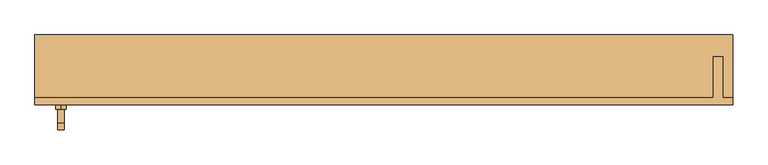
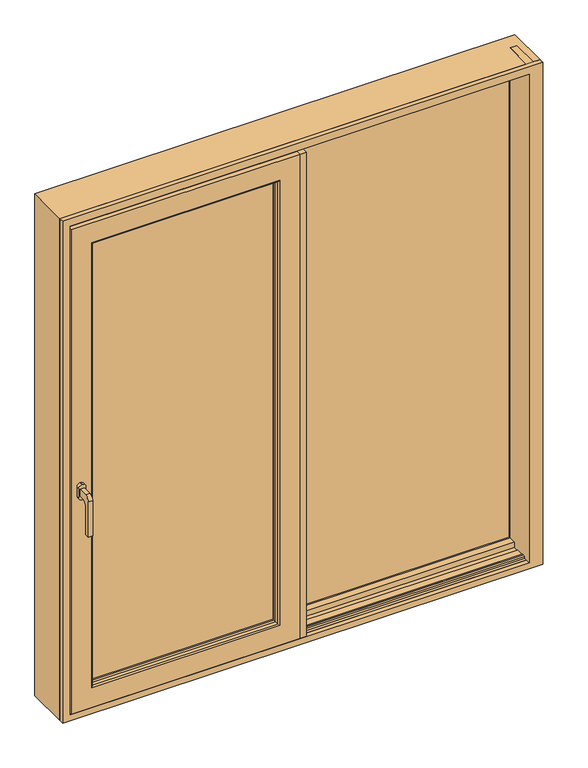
"""IFC4 building model written with IfcOpenShell, lengths in millimetres: door geometry, 2_pod-kli : 2_pod-kli."""

from ifc_helpers import new_model, si_unit, point, frame, frame_2d, origin, place, context, project, spatial, polyline, circle_curve, ellipse_curve, trimmed, segment, composite_curve, outline, extrude, faceted_brep, source, transform, mapped, element, save
from ifc_brep_helpers import plane_surface, cylinder_surface, advanced_brep


def door_d54a2562(model_context):
    return source(origin(), model_context, "Body", "SolidModel", [
        extrude(outline(composite_curve([segment(polyline([(-63.0, 985.0), (-79.0, 985.0)]), True, "CONTINUOUS"), segment(trimmed(circle_curve(frame_2d((-79.0, 960.0)), 25.0), [point((-79.0, 985.0))], [point((-104.0, 960.0))], True, "CARTESIAN"), True, "CONTINUOUS"), segment(polyline([(-104.0, 960.0), (-104.0, 840.0), (-122.0, 840.0), (-122.0, 995.0)]), True, "CONTINUOUS"), segment(trimmed(circle_curve(frame_2d((-102.0, 995.0)), 20.0), [point((-122.0, 995.0))], [point((-102.0, 1015.0))], False, "CARTESIAN"), True, "CONTINUOUS"), segment(polyline([(-102.0, 1015.0), (-63.0, 1015.0), (-63.0, 1000.0), (-63.0, 985.0)]), True, "CONTINUOUS")], self_intersect=False)), frame((-934.6076899, 0.0, 0.0), z_axis=(1.0, 0.0, 0.0), x_axis=(0.0, 1.0, 0.0)), (0.0, 0.0, 1.0), 18.0),
        extrude(outline(composite_curve([segment(trimmed(circle_curve(frame_2d((981.0, -925.6076899)), 15.0), [point((981.0, -940.6076899))], [point((966.0, -925.6076899))], False, "CARTESIAN"), True, "CONTINUOUS"), segment(trimmed(circle_curve(frame_2d((981.0, -925.6076899)), 15.0), [point((966.0, -925.6076899))], [point((981.0, -910.6076899))], False, "CARTESIAN"), True, "CONTINUOUS"), segment(polyline([(981.0, -910.6076899), (1019.0, -910.6076899)]), True, "CONTINUOUS"), segment(trimmed(circle_curve(frame_2d((1019.0, -925.6076899)), 15.0), [point((1019.0, -910.6076899))], [point((1034.0, -925.6076899))], False, "CARTESIAN"), True, "CONTINUOUS"), segment(trimmed(circle_curve(frame_2d((1019.0, -925.6076899)), 15.0), [point((1034.0, -925.6076899))], [point((1019.0, -940.6076899))], False, "CARTESIAN"), True, "CONTINUOUS"), segment(polyline([(1019.0, -940.6076899), (981.0, -940.6076899)]), True, "CONTINUOUS")], self_intersect=False)), frame((0.0, -63.0, 0.0), z_axis=(0.0, 1.0, 0.0), x_axis=(0.0, 0.0, 1.0)), (0.0, 0.0, 1.0), 13.0),
        extrude(outline(polyline([(15.9997424, -50.0), (-9.3, -50.0), (-9.3, 55.0016512), (15.9997424, 55.0016512), (15.9997424, -50.0)])), frame((0.0, 0.0, 27.9994282), z_axis=(0.0, 0.0, 1.0), x_axis=(1.0, 0.0, 0.0)), (0.0, 0.0, 1.0), 2132.0005718),
        advanced_brep(
        [(-95.6733525, -50.0000001, 2073.6269051), (-100.6260911, -45.6858427, 2068.6741665), (-100.6260911, -45.6858427, 119.3258335), (-95.6733525, -50.0000001, 114.3730949), (-102.7996957, -29.9893924, 2066.5005619), (-102.7996957, -29.9893924, 121.4994381), (-873.6741665, -45.6858427, 119.3258335), (-878.6269051, -50.0000001, 114.3730949), (-9.3002576, -50.0, 2160.0), (-965.0, -50.0, 2160.0), (-965.0, -50.0, 28.0), (-9.3002576, -50.0, 28.0), (-878.6269051, -50.0, 2073.6269051), (-9.3002576, -29.8399769, 2160.0), (-9.3002576, -29.8399769, 28.0), (-965.0, -29.8399769, 28.0), (-965.0, -29.8399769, 2160.0), (-76.3996957, -29.8399769, 2092.9005619), (-897.9005619, -29.8399769, 2092.9005619), (-897.9005619, -29.8399769, 95.0994381), (-76.3996957, -29.8399769, 95.0994381), (-76.3996957, -19.9908997, 2092.9005619), (-76.3996957, -19.9908997, 95.0994381), (-897.9005619, -19.9908997, 95.0994381), (-897.9005619, -19.9908997, 2092.9005619), (-102.7996957, -19.9908997, 2066.5005619), (-871.5005619, -19.9908997, 2066.5005619), (-871.5005619, -19.9908997, 121.4994381), (-102.7996957, -19.9908997, 121.4994381), (-871.5005619, -29.9893924, 121.4994381), (-873.6741665, -45.6858427, 2068.6741665), (-871.5005619, -29.9893924, 2066.5005619)],
        [
            (0, 1, ellipse_curve(frame((-95.6733525, -45.0000001, 2073.6269051), z_axis=(0.7071067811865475, 0.0, -0.7071067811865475), x_axis=(0.7071067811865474, 0.0, 0.7071067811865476)), 7.0710678, 5.0)),
            (1, 2),
            (2, 3, ellipse_curve(frame((-95.6733525, -45.0000001, 114.3730949), z_axis=(0.7071067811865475, 0.0, 0.7071067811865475), x_axis=(-0.7071067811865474, 0.0, 0.7071067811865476)), 7.0710678, 5.0)),
            (3, 0),
            (1, 4),
            (4, 5),
            (5, 2),
            (2, 6),
            (6, 7, ellipse_curve(frame((-878.6269051, -45.0000001, 114.3730949), z_axis=(0.7071067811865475, 0.0, -0.7071067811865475), x_axis=(0.7071067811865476, 0.0, 0.7071067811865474)), 7.0710678, 5.0)),
            (7, 3),
            (8, 9),
            (9, 10),
            (10, 11),
            (11, 8),
            (7, 12),
            (12, 0),
            (13, 8),
            (11, 14),
            (14, 13),
            (10, 15),
            (15, 14),
            (15, 16),
            (16, 13),
            (17, 18),
            (18, 19),
            (19, 20),
            (20, 17),
            (21, 17),
            (20, 22),
            (22, 21),
            (19, 23),
            (23, 22),
            (23, 24),
            (24, 21),
            (25, 26),
            (26, 27),
            (27, 28),
            (28, 25),
            (4, 25),
            (28, 5),
            (27, 29),
            (29, 5),
            (29, 6),
            (6, 30),
            (30, 12, ellipse_curve(frame((-878.6269051, -45.0000001, 2073.6269051), z_axis=(-0.7071067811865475, 0.0, -0.7071067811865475), x_axis=(0.7071067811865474, 0.0, -0.7071067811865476)), 7.0710678, 5.0)),
            (9, 16),
            (18, 24),
            (26, 31),
            (31, 29),
            (31, 30),
            (30, 1),
            (4, 31),
        ],
        [
            cylinder_surface(frame((-95.6733525, -45.0000001, 2188.0), z_axis=(0.0, 0.0, 1.0), x_axis=(0.00014757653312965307, -0.9999999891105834, 0.0)), 5.0),
            plane_surface(frame((-102.7996957, -29.9893924, 2066.5005619), z_axis=(-0.9905477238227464, -0.13716853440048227, 0.0), x_axis=(0.0, 0.0, -1.0))),
            cylinder_surface(frame((18.6997424, -45.0000001, 114.3730949), z_axis=(1.0, 0.0, 0.0), x_axis=(0.0, -0.9999999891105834, -0.00014757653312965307)), 5.0),
            plane_surface(frame((-878.6269051, -50.0, 2073.6269051), z_axis=(0.0, -1.0, 0.0), x_axis=(1.0, 0.0, 0.0))),
            plane_surface(frame((-9.3002576, -50.0, 2160.0), z_axis=(1.0, 0.0, 0.0), x_axis=(0.0, 0.0, -1.0))),
            plane_surface(frame((-9.3002576, -50.0, 28.0), z_axis=(0.0, 0.0, -1.0), x_axis=(-1.0, 0.0, 0.0))),
            plane_surface(frame((-965.0, -29.8399769, 2160.0), z_axis=(0.0, 1.0, 0.0), x_axis=(1.0, 0.0, 0.0))),
            plane_surface(frame((-76.3996957, -29.8399769, 2092.9005619), z_axis=(1.0, 0.0, 0.0), x_axis=(0.0, 0.0, -1.0))),
            plane_surface(frame((-76.3996957, -29.8399769, 95.0994381), z_axis=(0.0, 0.0, -1.0), x_axis=(-1.0, 0.0, 0.0))),
            plane_surface(frame((-897.9005619, -19.9908997, 2092.9005619), z_axis=(0.0, 1.0, 0.0), x_axis=(1.0, 0.0, 0.0))),
            plane_surface(frame((-102.7996957, -19.9908997, 2066.5005619), z_axis=(-1.0, 0.0, 0.0), x_axis=(0.0, 0.0, -1.0))),
            plane_surface(frame((-102.7996957, -19.9908997, 121.4994381), z_axis=(0.0, 0.0, 1.0), x_axis=(-1.0, 0.0, 0.0))),
            plane_surface(frame((-102.7996957, -29.9893924, 121.4994381), z_axis=(0.0, -0.13716853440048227, 0.9905477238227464), x_axis=(-1.0, 0.0, 0.0))),
            cylinder_surface(frame((-878.6269051, -45.0000001, 0.0), z_axis=(0.0, 0.0, -1.0), x_axis=(-0.00014757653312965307, -0.9999999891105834, 0.0)), 5.0),
            plane_surface(frame((-965.0, -50.0, 28.0), z_axis=(-1.0, 0.0, 0.0), x_axis=(0.0, 0.0, 1.0))),
            plane_surface(frame((-897.9005619, -29.8399769, 95.0994381), z_axis=(-1.0, 0.0, 0.0), x_axis=(0.0, 0.0, 1.0))),
            plane_surface(frame((-871.5005619, -19.9908997, 121.4994381), z_axis=(1.0, 0.0, 0.0), x_axis=(0.0, 0.0, 1.0))),
            plane_surface(frame((-871.5005619, -29.9893924, 121.4994381), z_axis=(0.9905477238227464, -0.13716853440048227, 0.0), x_axis=(0.0, 0.0, 1.0))),
            cylinder_surface(frame((-993.0, -45.0000001, 2073.6269051), z_axis=(-1.0, 0.0, 0.0), x_axis=(0.0, -0.9999999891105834, 0.00014757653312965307)), 5.0),
            plane_surface(frame((-965.0, -50.0, 2160.0), z_axis=(0.0, 0.0, 1.0), x_axis=(1.0, 0.0, 0.0))),
            plane_surface(frame((-897.9005619, -29.8399769, 2092.9005619), z_axis=(0.0, 0.0, 1.0), x_axis=(1.0, 0.0, 0.0))),
            plane_surface(frame((-871.5005619, -19.9908997, 2066.5005619), z_axis=(0.0, 0.0, -1.0), x_axis=(1.0, 0.0, 0.0))),
            plane_surface(frame((-871.5005619, -29.9893924, 2066.5005619), z_axis=(0.0, -0.13716853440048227, -0.9905477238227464), x_axis=(1.0, 0.0, 0.0))),
        ],
        [
            (0, [[1, 2, 3, 4]]),
            (1, [[5, 6, 7, -2]]),
            (2, [[-3, 8, 9, 10]]),
            (3, [[11, 12, 13, 14], [-10, 15, 16, -4]]),
            (4, [[17, -14, 18, 19]]),
            (5, [[-18, -13, 20, 21]]),
            (6, [[-21, 22, 23, -19], [24, 25, 26, 27]]),
            (7, [[28, -27, 29, 30]]),
            (8, [[-29, -26, 31, 32]]),
            (9, [[-32, 33, 34, -30], [35, 36, 37, 38]]),
            (10, [[39, -38, 40, -6]]),
            (11, [[-40, -37, 41, 42]]),
            (12, [[-7, -42, 43, -8]]),
            (13, [[-9, 44, 45, -15]]),
            (14, [[-20, -12, 46, -22]]),
            (15, [[-31, -25, 47, -33]]),
            (16, [[-41, -36, 48, 49]]),
            (17, [[-43, -49, 50, -44]]),
            (18, [[-45, 51, -1, -16]]),
            (19, [[-46, -11, -17, -23]]),
            (20, [[-47, -24, -28, -34]]),
            (21, [[-48, -35, -39, 52]]),
            (22, [[-50, -52, -5, -51]]),
        ],
    ),
        extrude(outline(polyline([(-86.79969, -11.9872085), (-887.5005675, -11.9872085), (-887.5005675, 34.0127085), (-86.79969, 34.0127085), (-86.79969, -11.9872085)])), frame((0.0, 0.0, 105.4994325), z_axis=(0.0, 0.0, 1.0), x_axis=(1.0, 0.0, 0.0)), (0.0, 0.0, 1.0), 1977.001135),
        faceted_brep([(-965.0, -29.8399769, 28.0), (-965.0, -20.6389612, 28.0), (-9.3002576, -20.6389612, 28.0), (-9.3002576, -29.8399769, 28.0), (-9.3002576, -20.6389612, 2160.0), (-9.3002576, -29.8399769, 2160.0), (-965.0, -20.6389612, 2160.0), (-30.7996854, -20.6389612, 2138.5005722), (-943.5005722, -20.6389612, 2138.5005722), (-943.5005722, -20.6389612, 49.4994278), (-30.7996854, -20.6389612, 49.4994278), (-965.0, -29.8399769, 2160.0), (-76.3996957, -29.8399769, 95.0994381), (-897.9005619, -29.8399769, 95.0994381), (-897.9005619, -29.8399769, 2092.9005619), (-76.3996957, -29.8399769, 2092.9005619), (-897.9005619, -19.9908997, 95.0994381), (-76.3996957, -19.9908997, 95.0994381), (-76.3996957, -19.9908997, 2092.9005619), (-897.9005619, -19.9908997, 2092.9005619), (-102.7996957, -19.9908997, 121.4994381), (-871.5005619, -19.9908997, 121.4994381), (-871.5005619, -19.9908997, 2066.5005619), (-102.7996957, -19.9908997, 2066.5005619), (-871.5005619, -11.9872085, 121.4994381), (-102.7996957, -11.9872085, 121.4994381), (-102.7996957, -11.9872085, 2066.5005619), (-86.79969, -11.9872085, 105.4994325), (-887.5005675, -11.9872085, 105.4994325), (-887.5005675, -11.9872085, 2082.5005675), (-86.79969, -11.9872085, 2082.5005675), (-871.5005619, -11.9872085, 2066.5005619), (-887.5005675, 34.0127085, 105.4994325), (-86.79969, 34.0127085, 105.4994325), (-86.79969, 34.0127085, 2082.5005675), (-887.5005675, 34.0127085, 2082.5005675), (-101.799685, 34.0127085, 120.4994274), (-872.5005726, 34.0127085, 120.4994274), (-872.5005726, 34.0127085, 2067.5005726), (-101.799685, 34.0127085, 2067.5005726), (-872.5005726, 42.0100227, 120.4994274), (-101.799685, 42.0100227, 120.4994274), (-101.799685, 42.0100227, 2067.5005726), (-9.2996857, 42.0100227, 27.9994282), (-965.0005718, 42.0100227, 27.9994282), (-965.0005718, 42.0100227, 2160.0005718), (-9.2996857, 42.0100227, 2160.0005718), (-872.5005726, 42.0100227, 2067.5005726), (-965.0005718, 37.5090496, 27.9994282), (-9.2996857, 37.5090496, 27.9994282), (-9.2996857, 37.5090496, 2160.0005718), (-965.0005718, 37.5090496, 2160.0005718), (-30.7996854, 37.5090496, 49.4994278), (-943.5005722, 37.5090496, 49.4994278), (-943.5005722, 37.5090496, 2138.5005722), (-30.7996854, 37.5090496, 2138.5005722)], [[[0, 1, 2, 3]], [[3, 2, 4, 5]], [[2, 1, 6, 4], [7, 8, 9, 10]], [[5, 11, 0, 3], [12, 13, 14, 15]], [[16, 13, 12, 17]], [[17, 12, 15, 18]], [[18, 19, 16, 17], [20, 21, 22, 23]], [[24, 21, 20, 25]], [[25, 20, 23, 26]], [[27, 28, 29, 30], [26, 31, 24, 25]], [[32, 28, 27, 33]], [[33, 27, 30, 34]], [[34, 35, 32, 33], [36, 37, 38, 39]], [[40, 37, 36, 41]], [[41, 36, 39, 42]], [[43, 44, 45, 46], [42, 47, 40, 41]], [[48, 44, 43, 49]], [[49, 43, 46, 50]], [[50, 51, 48, 49], [52, 53, 54, 55]], [[9, 53, 52, 10]], [[10, 52, 55, 7]], [[11, 6, 1, 0]], [[19, 14, 13, 16]], [[31, 22, 21, 24]], [[35, 29, 28, 32]], [[47, 38, 37, 40]], [[51, 45, 44, 48]], [[8, 54, 53, 9]], [[5, 4, 6, 11]], [[18, 15, 14, 19]], [[26, 23, 22, 31]], [[34, 30, 29, 35]], [[42, 39, 38, 47]], [[50, 46, 45, 51]], [[7, 55, 54, 8]]]),
        faceted_brep([(0.0, 87.9912191, 28.0008789), (0.0, 57.9912191, 28.0008789), (0.0, 57.9912191, 35.0008765), (0.0, 87.9912191, 35.0008765), (960.0000419, 87.9912191, 28.0008789), (960.0000419, 57.9912191, 28.0008789), (960.0000419, 57.9912191, 51.0008822), (16.0001121, 57.9912191, 51.0008822), (16.0001121, 57.9912191, 2149.9999968), (960.0000419, 57.9912191, 2149.9999968), (960.0000419, 57.9912191, 2170.9999968), (0.0, 57.9912191, 2170.9999968), (0.0, 57.9912191, 2166.0000024), (-93.9998879, 57.9912191, 2166.0000024), (-93.9998879, 57.9912191, 35.0008765), (-10.3998879, 78.1509228, 35.0008765), (-10.3998879, 88.0, 35.0008765), (-93.9998879, 78.1509228, 35.0008765), (960.0000419, 87.9912191, 51.0008822), (-10.3998879, 87.9912191, 2166.0000024), (0.0, 87.9912191, 2166.0000024), (0.0, 87.9912191, 2170.9999968), (960.0000419, 87.9912191, 2170.9999968), (960.0000419, 87.9912191, 2149.9999968), (16.0001121, 87.9912191, 2149.9999968), (16.0001121, 87.9912191, 51.0008822), (-10.3998879, 78.1509228, 2166.0000024), (-93.9998879, 78.1509228, 2166.0000024)], [[[0, 1, 2, 3]], [[1, 0, 4, 5]], [[5, 6, 7, 8, 9, 10, 11, 12, 13, 14, 2, 1]], [[15, 16, 3, 2, 14, 17]], [[18, 4, 0, 3, 16, 19, 20, 21, 22, 23, 24, 25]], [[18, 6, 5, 4]], [[6, 18, 25, 7]], [[26, 19, 16, 15]], [[7, 25, 24, 8]], [[13, 27, 17, 14]], [[27, 26, 15, 17]], [[26, 27, 13, 12, 20, 19]], [[11, 21, 20, 12]], [[23, 22, 10, 9]], [[23, 9, 8, 24]], [[21, 11, 10, 22]]]),
        faceted_brep([(-1000.0, -50.0, 0.0), (-1000.0, -29.85, 0.0), (944.0126443, -29.8604456, 0.0), (944.0126443, 88.0, 0.0), (972.0, 88.0, 0.0), (972.0, -29.8605959, 0.0), (1000.0, -29.8607464, 0.0), (1000.0, -50.0, 0.0), (-1000.0, -50.0, 2210.0), (-1000.0, -29.85, 2210.0), (1000.0, -29.85, 25.0), (972.0, -29.85, 25.0), (1000.0, -29.85, 2210.0), (1000.0, -29.85, 2177.9994303), (972.0, -29.85, 2177.9994303), (972.0, -29.85, 2210.0), (-967.9994303, -29.85, 2177.9994303), (-967.9994303, -29.85, 25.0), (944.0126443, -29.85, 25.0), (944.0126443, -29.85, 2210.0), (944.0126443, -29.85, 2177.9994303), (944.0126443, 88.0, 2210.0), (944.0126443, -50.0, 25.0), (944.0126443, -50.0, 2177.9994303), (972.0, 88.0, 2210.0), (972.0, -31.5990772, 2177.9994303), (972.0, -31.5990772, 25.0), (1000.0, -50.0, 2210.0), (1000.0, -31.5990772, 25.0), (1000.0, -31.5990772, 2177.9994303), (-967.9994303, -50.0, 2177.9994303), (-967.9994303, -50.0, 25.0)], [[[0, 1, 2, 3, 4, 5, 6, 7]], [[1, 0, 8, 9]], [[10, 6, 5, 11]], [[12, 13, 14, 15]], [[16, 17, 18, 2, 1, 9, 19, 20]], [[21, 3, 2, 18, 22, 23, 20, 19]], [[21, 24, 4, 3]], [[4, 24, 15, 14, 25, 26, 11, 5]], [[12, 27, 7, 6, 10, 28, 29, 13]], [[27, 8, 0, 7], [30, 23, 22, 31]], [[10, 11, 26, 28]], [[17, 31, 22, 18]], [[16, 30, 31, 17]], [[29, 28, 26, 25]], [[9, 8, 27, 12, 15, 24, 21, 19]], [[13, 29, 25, 14]], [[30, 16, 20, 23]]]),
        extrude(outline(polyline([(960.0000419, 96.0065267), (0.0, 96.0065267), (0.0, 142.0064437), (960.0000419, 142.0064437), (960.0000419, 96.0065267)])), frame((0.0, 0.0, 35.0008765), z_axis=(0.0, 0.0, 1.0), x_axis=(1.0, 0.0, 0.0)), (0.0, 0.0, 1.0), 2130.9991259),
        advanced_brep(
        [(-1000.0, 150.0, 0.0), (-958.0046937, 150.0, 0.0), (-958.0046937, 136.1919832, 0.0), (960.0000419, 136.1919832, 0.0), (960.0000419, 142.0069369, 0.0), (945.0, 142.0069369, 0.0), (945.0, 150.0043343, 0.0), (1000.0, 150.0043343, 0.0), (1000.0, -31.5990772, 0.0), (972.0, -31.5990772, 0.0), (972.0, -29.8607464, 0.0), (-1000.0, -29.85, 0.0), (-1000.0, 150.0, 2210.0), (1000.0, 150.0, 2210.0), (945.0, 150.0, 8.6004634), (-958.0046937, 150.0, 8.6004634), (-958.0046937, 150.0, 2151.0), (-958.0046937, 150.0, 29.2995502), (-102.8005235, 150.0, 29.2999596), (-102.8005235, 150.0, 2151.0), (945.0, 150.0, 2151.0), (14.9999949, 150.0, 2151.0), (14.9999949, 150.0, 50.0000088), (945.0, 150.0, 50.0000088), (-958.0046937, 136.1919832, 8.6004634), (-958.0046937, 42.002619, 2151.0), (-958.0046937, 42.002619, 35.1622652), (-102.8005235, 136.1919832, 8.6004634), (0.0, 136.1919832, 8.6004634), (960.0000419, 136.1919832, 8.6004634), (960.0000419, 142.006885, 8.6004634), (960.0000419, 95.9939372, 2166.0000024), (960.0000419, 141.9938542, 2166.0000024), (960.0000419, 142.0067255, 35.0008765), (960.0000419, 96.0068085, 35.0008765), (945.0, 141.9938542, 8.6004634), (0.0, 141.9938542, 2166.0000024), (0.0, 141.9938542, 35.0008765), (945.0, 141.9938542, 50.0000088), (14.9999949, 141.9938542, 50.0000088), (14.9999949, 141.9938542, 2151.0), (945.0, 141.9938542, 2151.0), (1000.0, -31.5990772, 2210.0), (972.0, -31.5990772, 2210.0), (972.0, -29.8637532, 2210.0), (972.0, -29.85, 2177.9999919), (972.0, -10.4639485, 2177.9994303), (972.0, -10.4639485, 2162.9482942), (972.0, -15.1622427, 2158.25), (972.0, -15.1622427, 2151.0), (972.0, 31.9911688, 2151.0), (972.0, 31.9911688, 2158.25), (972.0, 27.1411688, 2163.1), (972.0, 27.1411688, 2176.3999968), (972.0, 87.990246, 2176.3999968), (972.0, 87.9998745, 28.0008789), (972.0, 33.1393641, 28.0008789), (972.0, 32.2422965, 33.1), (972.0, -1.0710268, 33.1), (972.0, -1.0710268, 34.4968418), (972.0, -5.7710268, 34.5086179), (972.0, -5.7710268, 33.1), (972.0, -15.4154149, 33.1), (972.0, -16.7953413, 24.9994356), (972.0, -29.8607464, 24.9994356), (-1000.0, -29.85, 2210.0), (-967.9994303, -29.85, 25.0), (-967.9994303, -29.85, 2177.9994303), (-958.0, -10.4639485, 2162.9482942), (-958.0, -10.4639485, 2177.9994303), (-958.0, -20.6463649, 2177.9994303), (-958.0, -20.6463649, 33.1), (-958.0, -5.7710268, 33.1), (-958.0, -5.7710268, 34.5086179), (-958.0, -1.0710268, 34.4968418), (-958.0, -1.0710268, 33.1), (-958.0, 37.5016459, 33.1), (-958.0, 37.5016459, 2175.5), (-958.0, 27.1411688, 2175.5), (-958.0, 27.1411688, 2163.1), (-958.0, 31.9911688, 2158.25), (-958.0, 31.9911688, 2151.0), (-958.0, -15.1622427, 2151.0), (-958.0, -15.1622427, 2158.25), (-965.0, 37.5016459, 2175.5), (0.0, 37.5016459, 33.1), (0.0, 37.5016459, 27.9994282), (-965.0, 37.5016459, 27.9994282), (0.0, 32.2422965, 33.1), (0.0, 33.1393641, 28.0008789), (0.0, -20.6463649, 33.1), (0.0, -20.6463649, 25.0), (0.0, -16.7953413, 24.9994356), (0.0, -15.4154149, 33.1), (0.0, 42.002619, 35.1622652), (0.0, 42.002619, 27.9994282), (0.0, 87.9912191, 28.0008789), (0.0, 87.9912191, 32.6657412), (-965.0, 42.002619, 27.9994282), (-965.0, 42.002619, 2175.5), (-967.9994303, -20.6463649, 2177.9994303), (-967.9994303, -20.6463649, 25.0), (0.0, -5.7710268, 34.5086179), (0.0, -1.0710268, 34.4968418), (-10.3998879, 88.0, 32.6652645), (-10.3998879, 78.1509228, 33.1999287), (-94.000536, 78.1509228, 33.1999287), (-94.000536, 44.9992712, 34.9995898), (-102.8005235, 44.9992712, 34.9995898), (-102.8005235, 44.9992712, 2151.0), (0.0, 42.002619, 2151.0), (0.0, 42.002619, 2175.5), (0.0, 27.1411688, 2175.5), (0.0, 87.990246, 2151.0), (0.0, 87.990246, 2176.3999968), (0.0, 27.1411688, 2176.3999968), (0.0, 95.9939372, 2166.0000024), (0.0, 95.9939372, 35.0008765), (943.9999968, 95.9939372, 2149.9999968), (16.0001121, 95.9939372, 2149.9999968), (16.0001121, 95.9939372, 51.0008822), (943.9999968, 95.9939372, 51.0008822), (16.0001121, 87.990246, 2149.9999968), (16.0001121, 87.991364, 51.0008822), (943.9999968, 87.9997686, 51.0008822), (943.9999968, 87.990246, 2149.9999968), (-10.3998879, 87.990246, 2151.0), (-10.3998879, 78.1509228, 2151.0), (-94.000536, 78.1509228, 2151.0), (-94.000536, 44.9992712, 2151.0)],
        [
            (0, 1),
            (1, 2),
            (2, 3),
            (3, 4),
            (4, 5),
            (5, 6),
            (6, 7),
            (7, 8),
            (8, 9),
            (9, 10),
            (10, 11),
            (11, 0),
            (0, 12),
            (12, 13),
            (13, 7),
            (6, 14),
            (14, 15),
            (15, 1),
            (16, 17),
            (17, 18),
            (18, 19),
            (19, 16),
            (20, 21),
            (21, 22),
            (22, 23),
            (23, 20),
            (15, 24),
            (24, 2),
            (16, 25),
            (25, 26),
            (26, 17),
            (24, 27),
            (27, 28),
            (28, 29),
            (29, 3),
            (30, 4),
            (29, 30),
            (31, 32),
            (32, 33),
            (33, 34),
            (34, 31),
            (30, 35),
            (35, 5),
            (36, 37),
            (37, 33),
            (32, 36),
            (38, 39),
            (39, 40),
            (40, 41),
            (41, 38),
            (35, 14),
            (41, 20),
            (23, 38),
            (42, 8),
            (13, 42),
            (42, 43),
            (43, 9),
            (43, 44),
            (44, 45),
            (45, 46),
            (46, 47),
            (47, 48),
            (48, 49),
            (49, 50),
            (50, 51),
            (51, 52),
            (52, 53),
            (53, 54),
            (54, 55),
            (55, 56),
            (56, 57),
            (57, 58),
            (58, 59),
            (59, 60, circle_curve(frame((972.0, -3.4231639, 33.6498114), z_axis=(1.0, 0.0, 0.0), x_axis=(0.0, -0.9391445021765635, 0.3435223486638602)), 2.5000018)),
            (60, 61),
            (61, 62),
            (62, 63),
            (63, 64),
            (64, 10),
            (44, 65),
            (65, 11),
            (64, 66),
            (66, 67),
            (67, 45),
            (65, 12),
            (68, 69),
            (69, 70),
            (70, 71),
            (71, 72),
            (72, 73),
            (73, 74, circle_curve(frame((-958.0, -3.4231639, 33.6498114), z_axis=(-1.0, 0.0, 0.0), x_axis=(0.0, 0.9408541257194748, 0.33881191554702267)), 2.5000018)),
            (74, 75),
            (75, 76),
            (76, 77),
            (77, 78),
            (78, 79),
            (79, 80),
            (80, 81),
            (81, 82),
            (82, 83),
            (83, 68),
            (84, 77),
            (76, 85),
            (85, 86),
            (86, 87),
            (87, 84),
            (75, 58),
            (57, 88),
            (88, 85),
            (88, 89),
            (89, 86),
            (90, 91),
            (91, 92),
            (92, 93),
            (93, 90),
            (94, 95),
            (95, 96),
            (96, 97),
            (97, 94),
            (98, 87),
            (89, 56),
            (55, 96),
            (95, 98),
            (99, 84),
            (98, 99),
            (70, 100),
            (100, 101),
            (101, 91),
            (90, 71),
            (93, 62),
            (61, 72),
            (102, 73),
            (60, 102),
            (102, 103, circle_curve(frame((0.0, -3.4231639, 33.6498114), z_axis=(-1.0, 0.0, 0.0), x_axis=(0.0, 0.9408541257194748, 0.33881191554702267)), 2.5000018)),
            (103, 74),
            (103, 59),
            (100, 67),
            (66, 101),
            (63, 92),
            (26, 94),
            (97, 104),
            (104, 105),
            (105, 106),
            (106, 107),
            (107, 108),
            (108, 18),
            (108, 109),
            (109, 19),
            (21, 40),
            (39, 22),
            (110, 111),
            (111, 99),
            (25, 110),
            (112, 111),
            (110, 113),
            (113, 114),
            (114, 115),
            (115, 112),
            (36, 116),
            (116, 117),
            (117, 37),
            (116, 31),
            (34, 117),
            (118, 119),
            (119, 120),
            (120, 121),
            (121, 118),
            (119, 122),
            (122, 123),
            (123, 120),
            (124, 121),
            (123, 124),
            (125, 118),
            (124, 125),
            (113, 126),
            (126, 104),
            (54, 114),
            (122, 125),
            (127, 105),
            (126, 127),
            (128, 106),
            (127, 128),
            (129, 107),
            (128, 129),
            (129, 109),
            (68, 47),
            (46, 69),
            (112, 78),
            (115, 53),
            (52, 79),
            (51, 80),
            (50, 81),
            (49, 82),
            (48, 83),
        ],
        [
            plane_surface(frame((-1000.0, -50.0, 0.0), z_axis=(0.0, 0.0, -1.0), x_axis=(0.0, -1.0, 0.0))),
            plane_surface(frame((-1000.0, 150.0, 0.0), z_axis=(0.0, 1.0, 0.0), x_axis=(0.0, 0.0, 1.0))),
            plane_surface(frame((-958.0046937, 150.0, 0.0), z_axis=(1.0, 0.0, 0.0), x_axis=(0.0, 0.0, 1.0))),
            plane_surface(frame((-1000.0, 136.1919832, 8.6004634), z_axis=(0.0, 1.0, 0.0), x_axis=(1.0, 0.0, 0.0))),
            plane_surface(frame((960.0000419, 96.0070199, 0.0), z_axis=(-1.0, 0.0, 0.0), x_axis=(0.0, 0.0, 1.0))),
            plane_surface(frame((0.0, 141.9938542, 2151.0), z_axis=(0.0, -1.0, 0.0), x_axis=(1.0, 0.0, 0.0))),
            plane_surface(frame((945.0, 142.0069369, 0.0), z_axis=(-1.0, 0.0, 0.0), x_axis=(0.0, 0.0, 1.0))),
            plane_surface(frame((1000.0, -50.0, 2210.0), z_axis=(1.0, 0.0, 0.0), x_axis=(0.0, -1.0, 0.0))),
            plane_surface(frame((1000.0, -31.5990772, 0.0), z_axis=(0.0, -1.0, 0.0), x_axis=(0.0, 0.0, 1.0))),
            plane_surface(frame((972.0, -31.5990772, 0.0), z_axis=(-1.0, 0.0, 0.0), x_axis=(0.0, 0.0, 1.0))),
            plane_surface(frame((-967.9994303, -29.85, 0.0), z_axis=(0.0, -1.0, 0.0), x_axis=(0.0, 0.0, 1.0))),
            plane_surface(frame((-1000.0, -29.85, 0.0), z_axis=(-1.0, 0.0, 0.0), x_axis=(0.0, 0.0, 1.0))),
            plane_surface(frame((-958.0, 37.5016459, 0.0), z_axis=(1.0, 0.0, 0.0), x_axis=(0.0, 0.0, 1.0))),
            plane_surface(frame((-965.0, 37.5016459, 0.0), z_axis=(0.0, 1.0, 0.0), x_axis=(0.0, 0.0, 1.0))),
            plane_surface(frame((-1000.0, -1.0710268, 33.1), z_axis=(0.0, 0.0, 1.0), x_axis=(1.0, 0.0, 0.0))),
            plane_surface(frame((0.0, -50.0, 0.0), z_axis=(1.0, 0.0, 0.0), x_axis=(0.0, -1.0, 0.0))),
            plane_surface(frame((-1000.0, 37.5016459, 27.9994282), z_axis=(0.0, 0.0, 1.0), x_axis=(1.0, 0.0, 0.0))),
            plane_surface(frame((-965.0, 42.002619, 0.0), z_axis=(1.0, 0.0, 0.0), x_axis=(0.0, 0.0, 1.0))),
            plane_surface(frame((-958.0, -20.6463649, 0.0), z_axis=(0.0, -1.0, 0.0), x_axis=(0.0, 0.0, 1.0))),
            plane_surface(frame((-1000.0, -20.6463649, 33.1), z_axis=(0.0, 0.0, 1.0), x_axis=(1.0, 0.0, 0.0))),
            plane_surface(frame((-1000.0, -5.7710268, 33.1), z_axis=(0.0, -1.0, 0.0), x_axis=(1.0, 0.0, 0.0))),
            cylinder_surface(frame((-1000.0, -3.4231639, 33.6498114), z_axis=(-1.0, 0.0, 0.0), x_axis=(0.0, 0.9408541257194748, 0.33881191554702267)), 2.5000018),
            plane_surface(frame((-1000.0, -1.0710268, 34.4968418), z_axis=(0.0, 1.0, 0.0), x_axis=(1.0, 0.0, 0.0))),
            plane_surface(frame((-967.9994303, -20.6463649, 0.0), z_axis=(1.0, 0.0, 0.0), x_axis=(0.0, 0.0, 1.0))),
            plane_surface(frame((-1000.0, -29.8607464, 25.0), z_axis=(0.0, 0.0, 1.0), x_axis=(1.0, 0.0, 0.0))),
            plane_surface(frame((-1000.0, 149.991552, 8.6004634), z_axis=(0.0, 0.0, -1.0), x_axis=(1.0, 0.0, 0.0))),
            plane_surface(frame((-1000.0, 42.002619, 35.1622652), z_axis=(0.0, 0.054205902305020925, 0.9985297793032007), x_axis=(1.0, 0.0, 0.0))),
            plane_surface(frame((-102.8005235, 149.9985918, 2210.0), z_axis=(-1.0, 0.0, 0.0), x_axis=(0.0, 0.0, -1.0))),
            plane_surface(frame((14.9999949, 142.0012775, 2210.0), z_axis=(1.0, 0.0, 0.0), x_axis=(0.0, 0.0, -1.0))),
            plane_surface(frame((0.0, 141.9948273, 50.0000088), z_axis=(0.0, 0.0, 1.0), x_axis=(1.0, 0.0, 0.0))),
            plane_surface(frame((-958.0046937, 42.002619, 0.0), z_axis=(0.0, -1.0, 0.0), x_axis=(0.0, 0.0, 1.0))),
            plane_surface(frame((0.0, -50.0, 2210.0), z_axis=(1.0, 0.0, 0.0), x_axis=(0.0, -1.0, 0.0))),
            plane_surface(frame((0.0, 95.9939372, 2166.0000024), z_axis=(0.0, 1.0, 0.0), x_axis=(1.0, 0.0, 0.0))),
            plane_surface(frame((0.0, 95.9949103, 35.0008765), z_axis=(0.0, 0.0, 1.0), x_axis=(1.0, 0.0, 0.0))),
            plane_surface(frame((16.0001121, 88.0, 2210.0), z_axis=(1.0, 0.0, 0.0), x_axis=(0.0, 0.0, -1.0))),
            plane_surface(frame((0.0, 87.9912191, 51.0008822), z_axis=(0.0, 0.0, 1.0), x_axis=(1.0, 0.0, 0.0))),
            plane_surface(frame((943.9999968, 88.0, 0.0), z_axis=(-1.0, 0.0, 0.0), x_axis=(0.0, 0.0, 1.0))),
            plane_surface(frame((0.0, 87.990246, 2149.9999968), z_axis=(0.0, -1.0, 0.0), x_axis=(1.0, 0.0, 0.0))),
            plane_surface(frame((-10.3998879, 78.1509228, 2210.0), z_axis=(1.0, 0.0, 0.0), x_axis=(0.0, 0.0, -1.0))),
            plane_surface(frame((0.0, 32.2422965, 33.1), z_axis=(0.0, 0.9848752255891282, 0.17326508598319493), x_axis=(1.0, 0.0, 0.0))),
            cylinder_surface(frame((0.0, -3.4231639, 33.6498114), z_axis=(-1.0, 0.0, 0.0), x_axis=(0.0, -0.9391445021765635, 0.3435223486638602)), 2.5000018),
            plane_surface(frame((0.0, -16.7953413, 24.9994356), z_axis=(0.0, -0.9857988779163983, 0.1679302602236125), x_axis=(1.0, 0.0, 0.0))),
            plane_surface(frame((-94.000536, 78.1509228, 2210.0), z_axis=(0.0, -1.0, 0.0), x_axis=(0.0, 0.0, -1.0))),
            plane_surface(frame((-94.000536, 44.9992712, 2210.0), z_axis=(1.0, 0.0, 0.0), x_axis=(0.0, 0.0, -1.0))),
            plane_surface(frame((-102.8005235, 44.9992712, 2210.0), z_axis=(0.0, -1.0, 0.0), x_axis=(0.0, 0.0, -1.0))),
            plane_surface(frame((-1000.0, -50.0, 2210.0), z_axis=(0.0, 0.0, 1.0), x_axis=(0.0, -1.0, 0.0))),
            plane_surface(frame((-1000.0, -10.4639485, 2162.9482942), z_axis=(0.0, -1.0, 0.0), x_axis=(1.0, 0.0, 0.0))),
            plane_surface(frame((-1000.0, -10.4639485, 2177.9994303), z_axis=(0.0, 0.0, -1.0), x_axis=(1.0, 0.0, 0.0))),
            plane_surface(frame((-1000.0, 149.9928746, 2151.0), z_axis=(0.0, 0.0, -1.0), x_axis=(1.0, 0.0, 0.0))),
            plane_surface(frame((-1000.0, 41.9921419, 2175.5), z_axis=(0.0, 0.0, -1.0), x_axis=(1.0, 0.0, 0.0))),
            plane_surface(frame((-1000.0, 27.1411688, 2175.5), z_axis=(0.0, 1.0, 0.0), x_axis=(1.0, 0.0, 0.0))),
            plane_surface(frame((-1000.0, 27.1411688, 2163.1), z_axis=(0.0, 0.7071067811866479, 0.7071067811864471), x_axis=(1.0, 0.0, 0.0))),
            plane_surface(frame((-1000.0, 31.9911688, 2158.25), z_axis=(0.0, 1.0, 0.0), x_axis=(1.0, 0.0, 0.0))),
            plane_surface(frame((-1000.0, 31.9911688, 2151.0), z_axis=(0.0, 0.0, -1.0), x_axis=(1.0, 0.0, 0.0))),
            plane_surface(frame((-1000.0, -15.1622427, 2151.0), z_axis=(0.0, -1.0, 0.0), x_axis=(1.0, 0.0, 0.0))),
            plane_surface(frame((-1000.0, -15.1622427, 2158.25), z_axis=(0.0, -0.7071067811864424, 0.7071067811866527), x_axis=(1.0, 0.0, 0.0))),
            plane_surface(frame((0.0, 141.9938542, 2166.0000024), z_axis=(0.0, 0.0, -1.0), x_axis=(1.0, 0.0, 0.0))),
            plane_surface(frame((0.0, 95.9939372, 2149.9999968), z_axis=(0.0, 0.0, -1.0), x_axis=(1.0, 0.0, 0.0))),
            plane_surface(frame((0.0, 87.990246, 2176.3999968), z_axis=(0.0, 0.0, -1.0), x_axis=(1.0, 0.0, 0.0))),
        ],
        [
            (0, [[1, 2, 3, 4, 5, 6, 7, 8, 9, 10, 11, 12]]),
            (1, [[-1, 13, 14, 15, -7, 16, 17, 18], [19, 20, 21, 22], [23, 24, 25, 26]]),
            (2, [[-2, -18, 27, 28]]),
            (2, [[29, 30, 31, -19]]),
            (3, [[-28, 32, 33, 34, 35, -3]]),
            (4, [[36, -4, -35, 37]]),
            (4, [[38, 39, 40, 41]]),
            (5, [[-5, -36, 42, 43]]),
            (5, [[44, 45, -39, 46], [47, 48, 49, 50]]),
            (6, [[-6, -43, 51, -16]]),
            (6, [[52, -26, 53, -50]]),
            (7, [[54, -8, -15, 55]]),
            (8, [[-9, -54, 56, 57]]),
            (9, [[-57, 58, 59, 60, 61, 62, 63, 64, 65, 66, 67, 68, 69, 70, 71, 72, 73, 74, 75, 76, 77, 78, 79, -10]]),
            (10, [[80, 81, -11, -79, 82, 83, 84, -59]]),
            (11, [[85, -13, -12, -81]]),
            (12, [[86, 87, 88, 89, 90, 91, 92, 93, 94, 95, 96, 97, 98, 99, 100, 101]]),
            (13, [[102, -94, 103, 104, 105, 106]]),
            (14, [[-103, -93, 107, -72, 108, 109]]),
            (15, [[-104, -109, 110, 111]]),
            (15, [[112, 113, 114, 115]]),
            (15, [[116, 117, 118, 119]]),
            (16, [[120, -105, -111, 121, -70, 122, -117, 123]]),
            (17, [[124, -106, -120, 125]]),
            (18, [[126, 127, 128, -112, 129, -88]]),
            (19, [[-129, -115, 130, -76, 131, -89]]),
            (20, [[132, -90, -131, -75, 133]]),
            (21, [[-132, 134, 135, -91]]),
            (22, [[-135, 136, -73, -107, -92]]),
            (23, [[137, -83, 138, -127]]),
            (24, [[-138, -82, -78, 139, -113, -128]]),
            (25, [[-27, -17, -51, -42, -37, -34, -33, -32]]),
            (26, [[140, -119, 141, 142, 143, 144, 145, 146, -20, -31]]),
            (27, [[-21, -146, 147, 148]]),
            (28, [[-24, 149, -48, 150]]),
            (29, [[-53, -25, -150, -47]]),
            (30, [[151, 152, -125, -123, -116, -140, -30, 153]]),
            (31, [[154, -151, 155, 156, 157, 158]]),
            (31, [[159, 160, 161, -44]]),
            (32, [[-160, 162, -41, 163], [164, 165, 166, 167]]),
            (33, [[-163, -40, -45, -161]]),
            (34, [[-165, 168, 169, 170]]),
            (35, [[171, -166, -170, 172]]),
            (36, [[173, -167, -171, 174]]),
            (37, [[-156, 175, 176, -141, -118, -122, -69, 177], [-172, -169, 178, -174]]),
            (38, [[179, -142, -176, 180]]),
            (39, [[-108, -71, -121, -110]]),
            (40, [[-136, -134, -133, -74]]),
            (41, [[-139, -77, -130, -114]]),
            (42, [[181, -143, -179, 182]]),
            (43, [[183, -144, -181, 184]]),
            (44, [[-147, -145, -183, 185]]),
            (45, [[-14, -85, -80, -58, -56, -55]]),
            (46, [[-86, 186, -61, 187]]),
            (47, [[-87, -187, -60, -84, -137, -126]]),
            (48, [[-153, -29, -22, -148, -185, -184, -182, -180, -175, -155]]),
            (48, [[-52, -49, -149, -23]]),
            (49, [[-154, 188, -95, -102, -124, -152]]),
            (50, [[-188, -158, 189, -67, 190, -96]]),
            (51, [[-97, -190, -66, 191]]),
            (52, [[-98, -191, -65, 192]]),
            (53, [[-99, -192, -64, 193]]),
            (54, [[-100, -193, -63, 194]]),
            (55, [[-101, -194, -62, -186]]),
            (56, [[-162, -159, -46, -38]]),
            (57, [[-173, -178, -168, -164]]),
            (58, [[-157, -177, -68, -189]]),
        ],
    ),
    ])


if __name__ == "__main__":
    model = new_model("IFC4")
    model_context = context("Model", 3, world=origin())
    ifc_project = project(units=[si_unit("LENGTHUNIT", "METRE", prefix="MILLI")], contexts=[model_context])
    site = spatial("IfcSite", under=ifc_project)
    building = spatial("IfcBuilding", under=site)
    placement = place(None, origin())
    door_shape = door_d54a2562(model_context)
    element("IfcDoor", 1, ObjectType="2_pod-kli : 2_pod-kli", at=placement, inside=building, context=model_context, shape_type="MappedRepresentation", body=[
        mapped(door_shape, transform((0.0, 0.0, 0.0), x_axis=(1.0, 0.0, 0.0), y_axis=(0.0, 1.0, 0.0), z_axis=(0.0, 0.0, 1.0))),
    ])
    save(model, "model.ifc")
